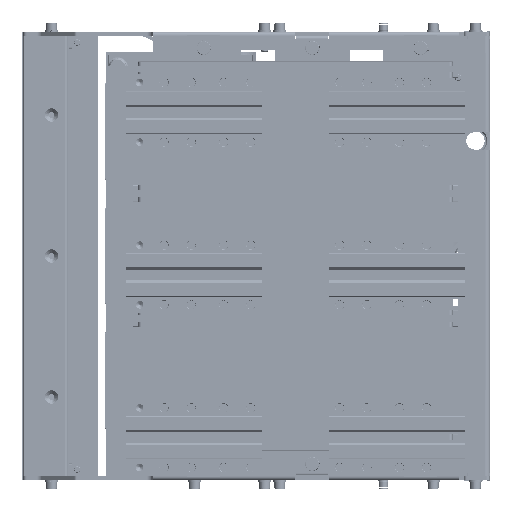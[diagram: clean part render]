
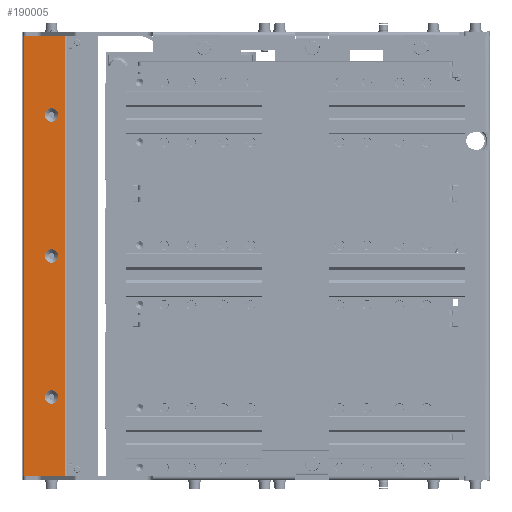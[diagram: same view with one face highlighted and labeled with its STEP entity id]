
A CAD part, left-side view. The second image highlights one B-rep face of the part: STEP entity #190005.
In plain terms, the highlighted planar face has unit normal (-1, 0, 0).
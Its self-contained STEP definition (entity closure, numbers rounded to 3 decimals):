
#692 = AXIS2_PLACEMENT_3D ( 'NONE', #19131, #350189, #167168 ) ;
#3618 = ORIENTED_EDGE ( 'NONE', *, *, #293471, .T. ) ;
#5702 = EDGE_CURVE ( 'NONE', #76132, #192274, #175668, .T. ) ;
#13172 = AXIS2_PLACEMENT_3D ( 'NONE', #149247, #86447, #295684 ) ;
#13773 = VERTEX_POINT ( 'NONE', #179739 ) ;
#16960 = DIRECTION ( 'NONE',  ( 0., 0., -1. ) ) ;
#17227 = FACE_BOUND ( 'NONE', #250090, .T. ) ;
#19131 = CARTESIAN_POINT ( 'NONE',  ( 294.756, 617.613, 234.188 ) ) ;
#22356 = DIRECTION ( 'NONE',  ( 0., 0., -1. ) ) ;
#22527 = EDGE_CURVE ( 'NONE', #341772, #182959, #45685, .T. ) ;
#25264 = CARTESIAN_POINT ( 'NONE',  ( 294.756, 591.613, 36.988 ) ) ;
#26566 = EDGE_CURVE ( 'NONE', #296889, #294181, #45253, .T. ) ;
#41354 = VERTEX_POINT ( 'NONE', #93527 ) ;
#41915 = VECTOR ( 'NONE', #238636, 1000. ) ;
#45253 = CIRCLE ( 'NONE', #305897, 6.1 ) ;
#45685 = CIRCLE ( 'NONE', #306556, 6.1 ) ;
#46953 = DIRECTION ( 'NONE',  ( 0., 0., -1. ) ) ;
#47097 = EDGE_CURVE ( 'NONE', #52105, #13773, #385418, .T. ) ;
#48366 = EDGE_LOOP ( 'NONE', ( #142196, #83729, #386529, #229683 ) ) ;
#52105 = VERTEX_POINT ( 'NONE', #110384 ) ;
#58936 = AXIS2_PLACEMENT_3D ( 'NONE', #225206, #168778, #46953 ) ;
#61366 = ORIENTED_EDGE ( 'NONE', *, *, #105199, .T. ) ;
#73844 = CIRCLE ( 'NONE', #75564, 6.1 ) ;
#75564 = AXIS2_PLACEMENT_3D ( 'NONE', #150500, #123058, #332296 ) ;
#76132 = VERTEX_POINT ( 'NONE', #135358 ) ;
#78298 = ORIENTED_EDGE ( 'NONE', *, *, #26566, .T. ) ;
#81259 = ORIENTED_EDGE ( 'NONE', *, *, #235010, .T. ) ;
#83729 = ORIENTED_EDGE ( 'NONE', *, *, #220252, .T. ) ;
#86447 = DIRECTION ( 'NONE',  ( 1., 0., 0. ) ) ;
#89359 = CARTESIAN_POINT ( 'NONE',  ( 294.756, 579.413, 234.188 ) ) ;
#93527 = CARTESIAN_POINT ( 'NONE',  ( 294.756, 591.613, -105.212 ) ) ;
#96031 = VECTOR ( 'NONE', #341314, 1000. ) ;
#104743 = DIRECTION ( 'NONE',  ( 1., 0., 0. ) ) ;
#105199 = EDGE_CURVE ( 'NONE', #182959, #341772, #264592, .T. ) ;
#107675 = CARTESIAN_POINT ( 'NONE',  ( 294.756, 616.613, 234.188 ) ) ;
#110384 = CARTESIAN_POINT ( 'NONE',  ( 294.756, 616.613, -172.412 ) ) ;
#112598 = DIRECTION ( 'NONE',  ( 1., 0., 0. ) ) ;
#123058 = DIRECTION ( 'NONE',  ( 1., 0., 0. ) ) ;
#128728 = EDGE_LOOP ( 'NONE', ( #151928, #3618 ) ) ;
#135358 = CARTESIAN_POINT ( 'NONE',  ( 294.756, 616.613, 234.188 ) ) ;
#140032 = VECTOR ( 'NONE', #22356, 1000. ) ;
#141743 = CARTESIAN_POINT ( 'NONE',  ( 294.756, 591.613, 30.888 ) ) ;
#142196 = ORIENTED_EDGE ( 'NONE', *, *, #5702, .F. ) ;
#148567 = ORIENTED_EDGE ( 'NONE', *, *, #22527, .T. ) ;
#149247 = CARTESIAN_POINT ( 'NONE',  ( 294.756, 591.613, -99.112 ) ) ;
#150500 = CARTESIAN_POINT ( 'NONE',  ( 294.756, 591.613, -99.112 ) ) ;
#151928 = ORIENTED_EDGE ( 'NONE', *, *, #340267, .T. ) ;
#167168 = DIRECTION ( 'NONE',  ( 0., 1., 0. ) ) ;
#168200 = LINE ( 'NONE', #107675, #140032 ) ;
#168778 = DIRECTION ( 'NONE',  ( 1., 0., 0. ) ) ;
#174259 = CARTESIAN_POINT ( 'NONE',  ( 294.756, 617.613, -172.412 ) ) ;
#175668 = LINE ( 'NONE', #286233, #96031 ) ;
#179739 = CARTESIAN_POINT ( 'NONE',  ( 294.756, 579.413, -172.412 ) ) ;
#182959 = VERTEX_POINT ( 'NONE', #345199 ) ;
#186571 = EDGE_CURVE ( 'NONE', #13773, #192274, #196494, .T. ) ;
#190005 = ADVANCED_FACE ( 'NONE', ( #274858, #17227, #312371, #256180 ), #261288, .F. ) ;
#192274 = VERTEX_POINT ( 'NONE', #370375 ) ;
#196494 = LINE ( 'NONE', #89359, #41915 ) ;
#204417 = DIRECTION ( 'NONE',  ( 0., -1., 0. ) ) ;
#220252 = EDGE_CURVE ( 'NONE', #76132, #52105, #168200, .T. ) ;
#225206 = CARTESIAN_POINT ( 'NONE',  ( 294.756, 591.613, 30.888 ) ) ;
#227892 = CARTESIAN_POINT ( 'NONE',  ( 294.756, 591.613, 160.888 ) ) ;
#229683 = ORIENTED_EDGE ( 'NONE', *, *, #186571, .T. ) ;
#235010 = EDGE_CURVE ( 'NONE', #294181, #296889, #358426, .T. ) ;
#238636 = DIRECTION ( 'NONE',  ( 0., 0., 1. ) ) ;
#250090 = EDGE_LOOP ( 'NONE', ( #148567, #61366 ) ) ;
#250732 = CARTESIAN_POINT ( 'NONE',  ( 294.756, 591.613, -93.012 ) ) ;
#256180 = FACE_BOUND ( 'NONE', #128728, .T. ) ;
#260548 = VERTEX_POINT ( 'NONE', #250732 ) ;
#261288 = PLANE ( 'NONE',  #692 ) ;
#264592 = CIRCLE ( 'NONE', #310595, 6.1 ) ;
#274858 = FACE_OUTER_BOUND ( 'NONE', #48366, .T. ) ;
#286233 = CARTESIAN_POINT ( 'NONE',  ( 294.756, 617.613, 234.188 ) ) ;
#293471 = EDGE_CURVE ( 'NONE', #41354, #260548, #73844, .T. ) ;
#294181 = VERTEX_POINT ( 'NONE', #335716 ) ;
#295684 = DIRECTION ( 'NONE',  ( 0., 0., -1. ) ) ;
#296326 = VECTOR ( 'NONE', #204417, 1000. ) ;
#296889 = VERTEX_POINT ( 'NONE', #25264 ) ;
#305897 = AXIS2_PLACEMENT_3D ( 'NONE', #141743, #381125, #349770 ) ;
#306556 = AXIS2_PLACEMENT_3D ( 'NONE', #227892, #112598, #16960 ) ;
#310595 = AXIS2_PLACEMENT_3D ( 'NONE', #316579, #104743, #344110 ) ;
#312371 = FACE_BOUND ( 'NONE', #370148, .T. ) ;
#316579 = CARTESIAN_POINT ( 'NONE',  ( 294.756, 591.613, 160.888 ) ) ;
#332296 = DIRECTION ( 'NONE',  ( 0., 0., -1. ) ) ;
#335716 = CARTESIAN_POINT ( 'NONE',  ( 294.756, 591.613, 24.788 ) ) ;
#339289 = CARTESIAN_POINT ( 'NONE',  ( 294.756, 591.613, 166.988 ) ) ;
#340267 = EDGE_CURVE ( 'NONE', #260548, #41354, #353987, .T. ) ;
#341314 = DIRECTION ( 'NONE',  ( 0., -1., 0. ) ) ;
#341772 = VERTEX_POINT ( 'NONE', #339289 ) ;
#344110 = DIRECTION ( 'NONE',  ( 0., 0., -1. ) ) ;
#345199 = CARTESIAN_POINT ( 'NONE',  ( 294.756, 591.613, 154.788 ) ) ;
#349770 = DIRECTION ( 'NONE',  ( 0., 0., -1. ) ) ;
#350189 = DIRECTION ( 'NONE',  ( 1., 0., 0. ) ) ;
#353987 = CIRCLE ( 'NONE', #13172, 6.1 ) ;
#358426 = CIRCLE ( 'NONE', #58936, 6.1 ) ;
#370148 = EDGE_LOOP ( 'NONE', ( #78298, #81259 ) ) ;
#370375 = CARTESIAN_POINT ( 'NONE',  ( 294.756, 579.413, 234.188 ) ) ;
#381125 = DIRECTION ( 'NONE',  ( 1., 0., 0. ) ) ;
#385418 = LINE ( 'NONE', #174259, #296326 ) ;
#386529 = ORIENTED_EDGE ( 'NONE', *, *, #47097, .T. ) ;
